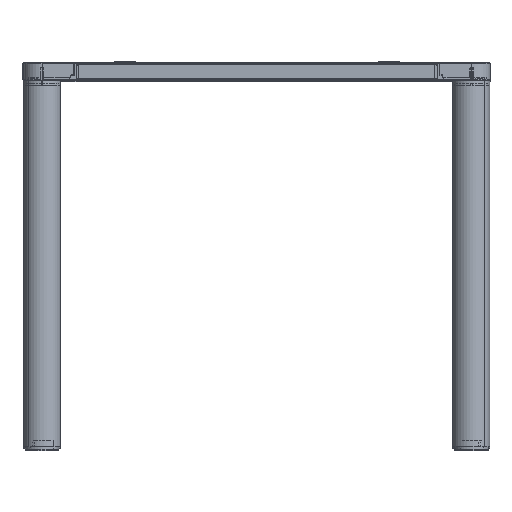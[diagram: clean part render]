
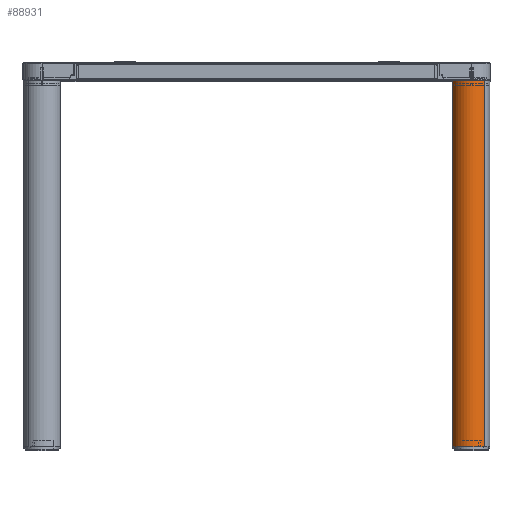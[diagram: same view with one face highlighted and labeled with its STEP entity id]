
A CAD part, top view. The second image highlights one B-rep face of the part: STEP entity #88931.
In plain terms, the highlighted cylindrical face has radius 31.75 mm (diameter 63.5 mm), a partial arc.
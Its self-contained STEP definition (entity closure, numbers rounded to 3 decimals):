
#82975=CARTESIAN_POINT('',(68.728,0.,
-2.309));
#82976=DIRECTION('',(0.,1.,0.));
#82977=DIRECTION('',(0.,0.,-1.));
#82978=AXIS2_PLACEMENT_3D('',#82975,#82976,#82977);
#82980=DIRECTION('',(0.,1.,0.));
#82981=VECTOR('',#82980,626.);
#82982=CARTESIAN_POINT('',(68.728,0.,
29.441));
#82983=LINE('',#82982,#82981);
#82984=DIRECTION('',(0.,1.,0.));
#82985=VECTOR('',#82984,626.);
#82986=CARTESIAN_POINT('',(68.728,0.,
-34.059));
#82987=LINE('',#82986,#82985);
#82993=CARTESIAN_POINT('',(68.728,626.,-2.309));
#82994=DIRECTION('',(0.,1.,0.));
#82995=DIRECTION('',(0.,0.,-1.));
#82996=AXIS2_PLACEMENT_3D('',#82993,#82994,#82995);
#83296=CARTESIAN_POINT('',(68.728,0.,
29.441));
#83297=CARTESIAN_POINT('',(68.728,0.,
-34.059));
#83298=VERTEX_POINT('',#83296);
#83299=VERTEX_POINT('',#83297);
#83862=CARTESIAN_POINT('',(68.728,626.,29.441));
#83863=CARTESIAN_POINT('',(68.728,626.,-34.059));
#83864=VERTEX_POINT('',#83862);
#83865=VERTEX_POINT('',#83863);
#88919=CARTESIAN_POINT('',(68.728,0.,
-2.309));
#88920=DIRECTION('',(0.,1.,0.));
#88921=DIRECTION('',(0.,0.,1.));
#88922=AXIS2_PLACEMENT_3D('',#88919,#88920,#88921);
#88923=CYLINDRICAL_SURFACE('',#88922,31.75);
#88924=ORIENTED_EDGE('',*,*,#88871,.F.);
#88925=ORIENTED_EDGE('',*,*,#88902,.T.);
#88927=ORIENTED_EDGE('',*,*,#88926,.T.);
#88928=ORIENTED_EDGE('',*,*,#88898,.F.);
#88929=EDGE_LOOP('',(#88924,#88925,#88927,#88928));
#88930=FACE_OUTER_BOUND('',#88929,.F.);
#82979=CIRCLE('',#82978,31.75);
#82997=CIRCLE('',#82996,31.75);
#88871=EDGE_CURVE('',#83299,#83298,#82979,.T.);
#88898=EDGE_CURVE('',#83298,#83864,#82983,.T.);
#88902=EDGE_CURVE('',#83299,#83865,#82987,.T.);
#88926=EDGE_CURVE('',#83865,#83864,#82997,.T.);
#88931=ADVANCED_FACE('',(#88930),#88923,.T.);
